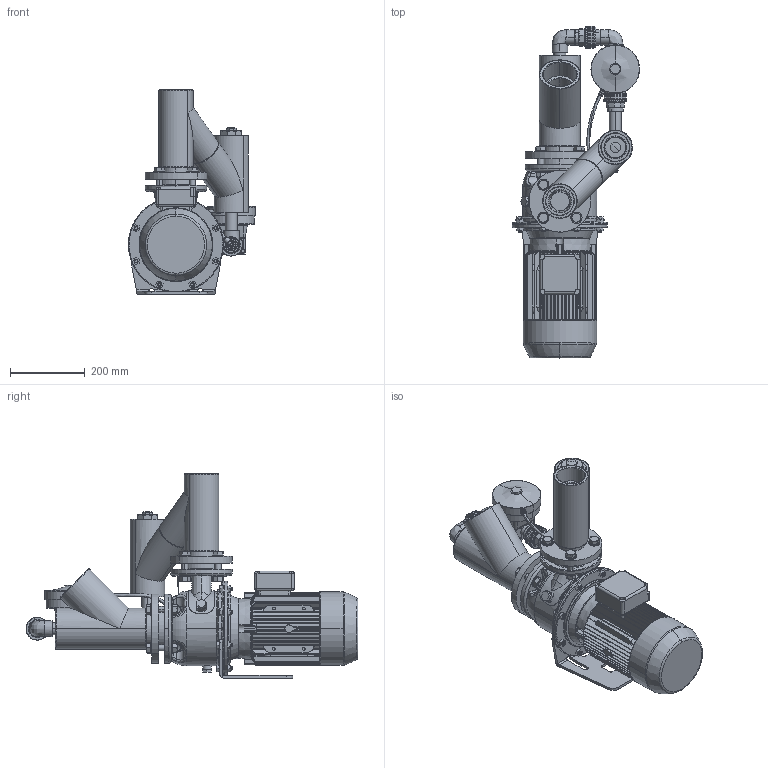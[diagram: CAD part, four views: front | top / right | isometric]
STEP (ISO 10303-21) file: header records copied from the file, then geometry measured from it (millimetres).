
FILE_DESCRIPTION (( 'STEP AP203' ), '1' );
FILE_NAME ('Lowara SHE 50-125 z.a.z auto. by-pass.STEP', '2011-04-07T06:35:49', ( '' ), ( '' ), 'SwSTEP 2.0', 'SolidWorks 2010', '' );
FILE_SCHEMA (( 'CONFIG_CONTROL_DESIGN' ));
Products named in the file (1): Lowara SHE 50-125 z.a.z auto. by-pass
Bounding box: 340 x 887.18 x 545.48 mm (x, y, z)
Volume: 20554998.9 mm3; surface area: 2309665 mm2
Topology: 67 solids, 69 shells, 2922 faces, 7322 edges, 4569 vertices
Faces by surface type: plane 1099, cylinder 910, cone 487, bspline 378, torus 48
Entity records: 122199 total; most frequent: CARTESIAN_POINT 56366, ORIENTED_EDGE 14454, DIRECTION 12766, EDGE_CURVE 7227, AXIS2_PLACEMENT_3D 5037, VERTEX_POINT 4569, EDGE_LOOP 3208, FACE_OUTER_BOUND 2922
